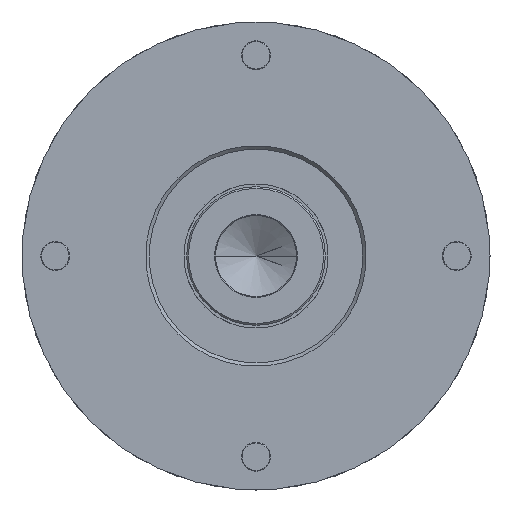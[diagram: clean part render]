
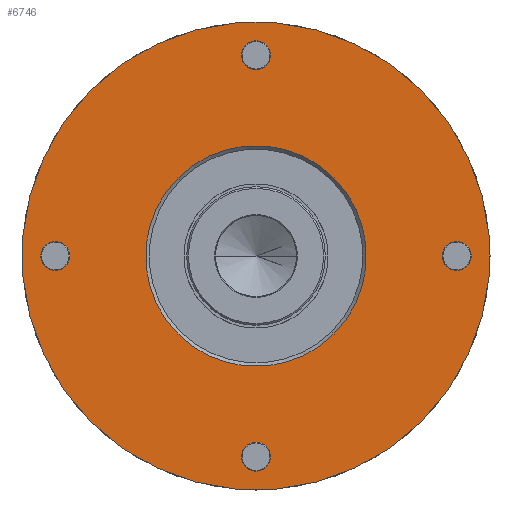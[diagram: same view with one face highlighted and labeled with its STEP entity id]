
A CAD part, left-side view. The second image highlights one B-rep face of the part: STEP entity #6746.
In plain terms, the highlighted planar face has unit normal (-1, 0, 0).
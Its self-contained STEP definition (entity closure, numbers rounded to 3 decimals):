
#6055=CARTESIAN_POINT('',(0.,0.,0.));
#6056=DIRECTION('',(-1.,0.,0.));
#6057=DIRECTION('',(0.,1.,0.));
#6058=AXIS2_PLACEMENT_3D('',#6055,#6056,#6057);
#6063=CARTESIAN_POINT('',(0.,0.,0.));
#6064=DIRECTION('',(1.,0.,0.));
#6065=DIRECTION('',(0.,1.,0.));
#6066=AXIS2_PLACEMENT_3D('',#6063,#6064,#6065);
#6071=CARTESIAN_POINT('',(0.,0.,0.));
#6072=DIRECTION('',(-1.,0.,0.));
#6073=DIRECTION('',(0.,-1.,0.));
#6074=AXIS2_PLACEMENT_3D('',#6071,#6072,#6073);
#6079=CARTESIAN_POINT('',(0.,0.,0.));
#6080=DIRECTION('',(-1.,0.,0.));
#6081=DIRECTION('',(0.,1.,0.));
#6082=AXIS2_PLACEMENT_3D('',#6079,#6080,#6081);
#6087=CARTESIAN_POINT('',(0.,24.572,-24.572));
#6088=DIRECTION('',(1.,0.,0.));
#6089=DIRECTION('',(0.,-1.,0.));
#6090=AXIS2_PLACEMENT_3D('',#6087,#6088,#6089);
#6095=CARTESIAN_POINT('',(0.,24.572,-24.572));
#6096=DIRECTION('',(1.,0.,0.));
#6097=DIRECTION('',(0.,1.,0.));
#6098=AXIS2_PLACEMENT_3D('',#6095,#6096,#6097);
#6103=CARTESIAN_POINT('',(0.,-24.572,-24.572));
#6104=DIRECTION('',(1.,0.,0.));
#6105=DIRECTION('',(0.,-1.,0.));
#6106=AXIS2_PLACEMENT_3D('',#6103,#6104,#6105);
#6111=CARTESIAN_POINT('',(0.,-24.572,-24.572));
#6112=DIRECTION('',(1.,0.,0.));
#6113=DIRECTION('',(0.,1.,0.));
#6114=AXIS2_PLACEMENT_3D('',#6111,#6112,#6113);
#6119=CARTESIAN_POINT('',(0.,-24.572,24.572));
#6120=DIRECTION('',(1.,0.,0.));
#6121=DIRECTION('',(0.,-1.,0.));
#6122=AXIS2_PLACEMENT_3D('',#6119,#6120,#6121);
#6127=CARTESIAN_POINT('',(0.,-24.572,24.572));
#6128=DIRECTION('',(1.,0.,0.));
#6129=DIRECTION('',(0.,1.,0.));
#6130=AXIS2_PLACEMENT_3D('',#6127,#6128,#6129);
#6135=CARTESIAN_POINT('',(0.,24.572,24.572));
#6136=DIRECTION('',(1.,0.,0.));
#6137=DIRECTION('',(0.,-1.,0.));
#6138=AXIS2_PLACEMENT_3D('',#6135,#6136,#6137);
#6143=CARTESIAN_POINT('',(0.,24.572,24.572));
#6144=DIRECTION('',(1.,0.,0.));
#6145=DIRECTION('',(0.,1.,0.));
#6146=AXIS2_PLACEMENT_3D('',#6143,#6144,#6145);
#6343=CARTESIAN_POINT('',(0.,40.5,0.));
#6344=CARTESIAN_POINT('',(0.,-40.5,0.));
#6345=VERTEX_POINT('',#6343);
#6346=VERTEX_POINT('',#6344);
#6387=CARTESIAN_POINT('',(0.,22.072,-24.572));
#6388=CARTESIAN_POINT('',(0.,27.072,-24.572));
#6389=VERTEX_POINT('',#6387);
#6390=VERTEX_POINT('',#6388);
#6391=CARTESIAN_POINT('',(0.,-27.072,-24.572));
#6392=CARTESIAN_POINT('',(0.,-22.072,-24.572));
#6393=VERTEX_POINT('',#6391);
#6394=VERTEX_POINT('',#6392);
#6395=CARTESIAN_POINT('',(0.,-27.072,24.572));
#6396=CARTESIAN_POINT('',(0.,-22.072,24.572));
#6397=VERTEX_POINT('',#6395);
#6398=VERTEX_POINT('',#6396);
#6399=CARTESIAN_POINT('',(0.,22.072,24.572));
#6400=CARTESIAN_POINT('',(0.,27.072,24.572));
#6401=VERTEX_POINT('',#6399);
#6402=VERTEX_POINT('',#6400);
#6411=CARTESIAN_POINT('',(0.,-19.1,0.));
#6412=CARTESIAN_POINT('',(0.,19.1,0.));
#6413=VERTEX_POINT('',#6411);
#6414=VERTEX_POINT('',#6412);
#6709=CARTESIAN_POINT('',(0.,0.,0.));
#6710=DIRECTION('',(1.,0.,0.));
#6711=DIRECTION('',(0.,-1.,0.));
#6712=AXIS2_PLACEMENT_3D('',#6709,#6710,#6711);
#6713=PLANE('',#6712);
#6714=ORIENTED_EDGE('',*,*,#6676,.F.);
#6715=ORIENTED_EDGE('',*,*,#6691,.T.);
#6716=EDGE_LOOP('',(#6714,#6715));
#6717=FACE_OUTER_BOUND('',#6716,.F.);
#6718=ORIENTED_EDGE('',*,*,#6447,.T.);
#6719=ORIENTED_EDGE('',*,*,#6462,.T.);
#6720=EDGE_LOOP('',(#6718,#6719));
#6721=FACE_BOUND('',#6720,.F.);
#6723=ORIENTED_EDGE('',*,*,#6722,.F.);
#6725=ORIENTED_EDGE('',*,*,#6724,.F.);
#6726=EDGE_LOOP('',(#6723,#6725));
#6727=FACE_BOUND('',#6726,.F.);
#6729=ORIENTED_EDGE('',*,*,#6728,.F.);
#6731=ORIENTED_EDGE('',*,*,#6730,.F.);
#6732=EDGE_LOOP('',(#6729,#6731));
#6733=FACE_BOUND('',#6732,.F.);
#6735=ORIENTED_EDGE('',*,*,#6734,.F.);
#6737=ORIENTED_EDGE('',*,*,#6736,.F.);
#6738=EDGE_LOOP('',(#6735,#6737));
#6739=FACE_BOUND('',#6738,.F.);
#6741=ORIENTED_EDGE('',*,*,#6740,.F.);
#6743=ORIENTED_EDGE('',*,*,#6742,.F.);
#6744=EDGE_LOOP('',(#6741,#6743));
#6745=FACE_BOUND('',#6744,.F.);
#6059=CIRCLE('',#6058,40.5);
#6067=CIRCLE('',#6066,40.5);
#6075=CIRCLE('',#6074,19.1);
#6083=CIRCLE('',#6082,19.1);
#6091=CIRCLE('',#6090,2.5);
#6099=CIRCLE('',#6098,2.5);
#6107=CIRCLE('',#6106,2.5);
#6115=CIRCLE('',#6114,2.5);
#6123=CIRCLE('',#6122,2.5);
#6131=CIRCLE('',#6130,2.5);
#6139=CIRCLE('',#6138,2.5);
#6147=CIRCLE('',#6146,2.5);
#6447=EDGE_CURVE('',#6413,#6414,#6075,.T.);
#6462=EDGE_CURVE('',#6414,#6413,#6083,.T.);
#6676=EDGE_CURVE('',#6345,#6346,#6059,.T.);
#6691=EDGE_CURVE('',#6345,#6346,#6067,.T.);
#6722=EDGE_CURVE('',#6389,#6390,#6091,.T.);
#6724=EDGE_CURVE('',#6390,#6389,#6099,.T.);
#6728=EDGE_CURVE('',#6393,#6394,#6107,.T.);
#6730=EDGE_CURVE('',#6394,#6393,#6115,.T.);
#6734=EDGE_CURVE('',#6397,#6398,#6123,.T.);
#6736=EDGE_CURVE('',#6398,#6397,#6131,.T.);
#6740=EDGE_CURVE('',#6401,#6402,#6139,.T.);
#6742=EDGE_CURVE('',#6402,#6401,#6147,.T.);
#6746=ADVANCED_FACE('',(#6717,#6721,#6727,#6733,#6739,#6745),#6713,.F.);
